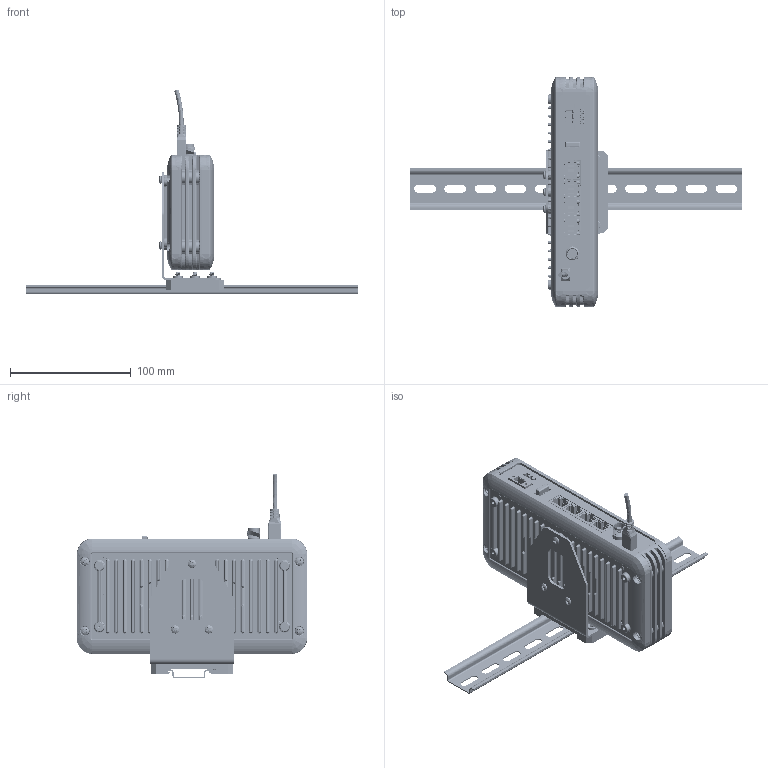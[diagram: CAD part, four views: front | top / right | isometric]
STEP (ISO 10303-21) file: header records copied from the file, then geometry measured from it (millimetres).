
FILE_DESCRIPTION (( 'STEP AP214' ), '1' );
FILE_NAME ('Z9-PE2.STEP', '2018-03-19T22:16:34', ( '' ), ( '' ), 'SwSTEP 2.0', 'SolidWorks 2016', '' );
FILE_SCHEMA (( 'AUTOMOTIVE_DESIGN' ));
Length unit declared in the file: inch
Products named in the file (108): Winford DINM15-RC Clip; 0402_ERE0000FP; McMaster-Carr 91772A145_91772A145; RLPH3-3_1; AB07_EXT3276SZ; 0603_ECA0106SX; Winford DINM15-RC Base; 0402_ERE2002FP; MICRO-USB-CONNECTOR; LPR3-600-800_1; FA238_EXT0024CS; 0402_ECA0104FX; MCA0005SD; 0402_ERE475RFP; USB Flash Drive; ECN5120TR; XTAL_ABM3C_EXT1474AA; 0402_ECA0104LS; MCA0007BT; 0402_ERE1002FP; LLR0070SP; ECN0502FR-2; QFN14HS_EIC6302PS; 0402_ECA0103FX; McMaster-Carr 92311A143_92311A143; 0402_ERE0330FP; CTP0003TH; EOP0062RG LED; SOTFL50P160X606N_EIC1020SS; epc0091xa81315n bottom_Z9-T; McMaster-Carr 91772A103_91772A103; MST0206SFMM2_MST0206SFMM2; CTP0002TH; HSO0204FF_91115A806; SOP65P640X11016N_EIC1674SS; LLR0080SP; PEM CSS-632-4; MTH093X180_MTH093X180; CTP0001TH; HSC0203LP_Lime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
Assembly tree (264 placements, depth 6):
  MST0206SFMM2_MST0206SFMM2
  MTH093X180_MTH093X180
  XROUNDTOP_LARGE_XROUNDTOP1_6
  Z9-PE2
    Z9-P2_BoardSet
      AII0001AA_Hand-add View 1
        EPC0095AA_Thor-B
        Micro processor, TI AM3352_Pkg
        ECN4758MS
        HSC0203LP_Lime  x4
        HSO0204FF_91115A806  x4
        EOP0062RG LED  x3
        ECN0502FR-2
        ECN5120TR
        RLP3-600-800
          LPR3-600-800_1
          RLPH3-3_1
        Molex 89485-8003
        ECN1478FS
          CLT_107_02_G_D_socket
          _C_0702_pins_4
        MMCX-P-P-H-ST-TH1
        Pulse JXD1-004xNL  x4
        Adhesive_MicroUSB
      HSC0203LP_Lime  x4
      Z9-C&T_Vertical MMCX Jack
        EPC0091XA_Single PCB
        TMM-107-01-G-D-SM-A-P-TR
          _TMM-107-01-G-D-SM-A-P-TR_body
          _TMM-107-01-G-D-SM_pin  x26
        Thor-A_emn_Z9-T
          epc0091xa81315n bottom_Z9-T
            LLR0080SP
          epc0091xa81315n top
            0402_ECA0103FX  x8
            0402_ECA0104LS  x2
            0402_ECA0104FX  x16
            0603_ECA0106SX  x5
            0402_ECA0105XV  x8
            0402_ECA0220FC  x3
            0402_ECA0120FC  x2
            0402_ECA0180FC  x2
            0402_ECA0020FP  x5
            EOP0026RG_EOP0062RG  x3
            SC703_EDI0099SD  x10
            0805IND_EIN0103FS
            0402_EIN0101FG
            0402_EIN0082FW  x2
            0805IND_EFI0805FB  x2
            EIN0472PS_EIN0102PT
            0402_ERE0330FP  x25
            0402_ERE1002FP  x12
            0402_ERE475RFP  x2
            0402_ERE2002FP
            0402_ERE0000FP  x10
            0402_ERE1004FP
            0402_ERE1001FP
            0402_ERE2001FP  x4
            0402_ERE1503FP
            0402_ERETBDFP
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Bounding box: 275.38 x 190.93 x 170.02 mm (x, y, z)
Volume: 324077.8 mm3; surface area: 272557.7 mm2
Topology: 268 solids, 276 shells, 12787 faces, 34269 edges, 22263 vertices
Faces by surface type: plane 6670, cylinder 3921, bspline 1045, cone 672, torus 296, sphere 183
Entity records: 329429 total; most frequent: CARTESIAN_POINT 122008, ORIENTED_EDGE 41316, DIRECTION 35466, EDGE_CURVE 20658, VERTEX_POINT 13498, LINE 12096, VECTOR 12096, AXIS2_PLACEMENT_3D 11685
